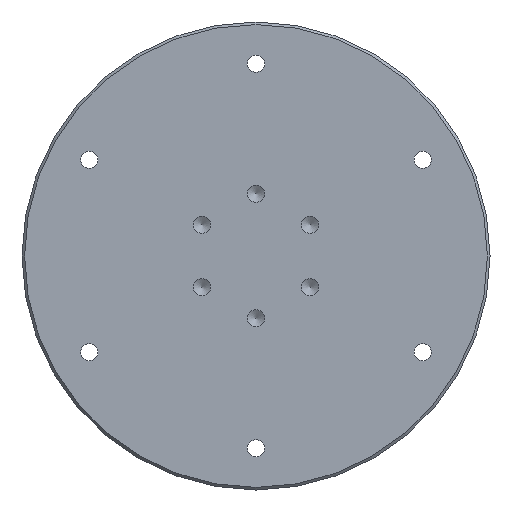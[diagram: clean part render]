
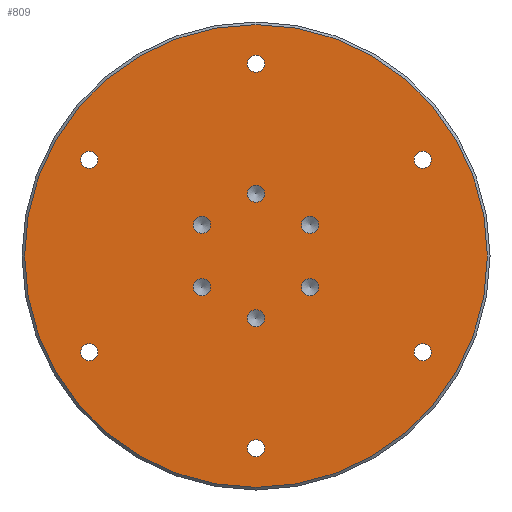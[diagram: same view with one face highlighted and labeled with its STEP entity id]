
A CAD part, left-side view. The second image highlights one B-rep face of the part: STEP entity #809.
In plain terms, the highlighted planar face has unit normal (-1, 0, 0).
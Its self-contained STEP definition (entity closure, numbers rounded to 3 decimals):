
#5 = AXIS2_PLACEMENT_3D ( 'NONE', #106, #428, #996 ) ;
#14 = AXIS2_PLACEMENT_3D ( 'NONE', #461, #954, #69 ) ;
#16 = DIRECTION ( 'NONE',  ( 0., 0., -1. ) ) ;
#20 = CARTESIAN_POINT ( 'NONE',  ( 0., 0., 37. ) ) ;
#35 = EDGE_CURVE ( 'NONE', #44, #44, #589, .T. ) ;
#44 = VERTEX_POINT ( 'NONE', #204 ) ;
#49 = DIRECTION ( 'NONE',  ( -1., 0., 0. ) ) ;
#59 = CARTESIAN_POINT ( 'NONE',  ( 0., 10.392, 7.65 ) ) ;
#60 = FACE_BOUND ( 'NONE', #257, .T. ) ;
#66 = DIRECTION ( 'NONE',  ( -1., 0., 0. ) ) ;
#68 = EDGE_LOOP ( 'NONE', ( #737 ) ) ;
#69 = DIRECTION ( 'NONE',  ( 0., 0., 1. ) ) ;
#78 = CIRCLE ( 'NONE', #857, 1.65 ) ;
#79 = EDGE_LOOP ( 'NONE', ( #618 ) ) ;
#80 = EDGE_CURVE ( 'NONE', #930, #930, #1031, .T. ) ;
#94 = AXIS2_PLACEMENT_3D ( 'NONE', #555, #66, #614 ) ;
#95 = EDGE_CURVE ( 'NONE', #210, #210, #486, .T. ) ;
#96 = ORIENTED_EDGE ( 'NONE', *, *, #80, .F. ) ;
#98 = CARTESIAN_POINT ( 'NONE',  ( 0., -32.043, -16.85 ) ) ;
#106 = CARTESIAN_POINT ( 'NONE',  ( 0., -32.043, 18.5 ) ) ;
#117 = AXIS2_PLACEMENT_3D ( 'NONE', #911, #583, #430 ) ;
#135 = VERTEX_POINT ( 'NONE', #385 ) ;
#136 = FACE_BOUND ( 'NONE', #981, .T. ) ;
#148 = EDGE_LOOP ( 'NONE', ( #783 ) ) ;
#164 = CARTESIAN_POINT ( 'NONE',  ( 0., 0., 12. ) ) ;
#183 = AXIS2_PLACEMENT_3D ( 'NONE', #681, #825, #325 ) ;
#204 = CARTESIAN_POINT ( 'NONE',  ( 0., 10.392, -4.35 ) ) ;
#210 = VERTEX_POINT ( 'NONE', #696 ) ;
#212 = VERTEX_POINT ( 'NONE', #854 ) ;
#217 = ORIENTED_EDGE ( 'NONE', *, *, #655, .F. ) ;
#218 = FACE_BOUND ( 'NONE', #266, .T. ) ;
#231 = VERTEX_POINT ( 'NONE', #59 ) ;
#233 = ORIENTED_EDGE ( 'NONE', *, *, #483, .F. ) ;
#239 = DIRECTION ( 'NONE',  ( 1., 0., 0. ) ) ;
#250 = CARTESIAN_POINT ( 'NONE',  ( 0., 0., 0. ) ) ;
#253 = CARTESIAN_POINT ( 'NONE',  ( 0., -10.392, 6. ) ) ;
#257 = EDGE_LOOP ( 'NONE', ( #217 ) ) ;
#266 = EDGE_LOOP ( 'NONE', ( #96 ) ) ;
#268 = EDGE_CURVE ( 'NONE', #212, #212, #548, .T. ) ;
#273 = DIRECTION ( 'NONE',  ( 0., 0., 1. ) ) ;
#301 = FACE_BOUND ( 'NONE', #790, .T. ) ;
#307 = AXIS2_PLACEMENT_3D ( 'NONE', #314, #318, #961 ) ;
#308 = CARTESIAN_POINT ( 'NONE',  ( 0., -10.392, 7.65 ) ) ;
#314 = CARTESIAN_POINT ( 'NONE',  ( 0., 10.392, -6. ) ) ;
#317 = EDGE_CURVE ( 'NONE', #231, #231, #800, .T. ) ;
#318 = DIRECTION ( 'NONE',  ( -1., 0., 0. ) ) ;
#321 = ORIENTED_EDGE ( 'NONE', *, *, #268, .F. ) ;
#323 = EDGE_CURVE ( 'NONE', #135, #135, #442, .T. ) ;
#325 = DIRECTION ( 'NONE',  ( 0., 0., 1. ) ) ;
#335 = CARTESIAN_POINT ( 'NONE',  ( 0., 0., -12. ) ) ;
#345 = AXIS2_PLACEMENT_3D ( 'NONE', #164, #566, #887 ) ;
#349 = DIRECTION ( 'NONE',  ( -1., 0., 0. ) ) ;
#379 = ORIENTED_EDGE ( 'NONE', *, *, #910, .F. ) ;
#385 = CARTESIAN_POINT ( 'NONE',  ( 0., 0., -44.5 ) ) ;
#401 = VERTEX_POINT ( 'NONE', #658 ) ;
#402 = DIRECTION ( 'NONE',  ( -1., 0., 0. ) ) ;
#424 = CIRCLE ( 'NONE', #5, 1.65 ) ;
#428 = DIRECTION ( 'NONE',  ( -1., 0., 0. ) ) ;
#429 = CIRCLE ( 'NONE', #527, 1.65 ) ;
#430 = DIRECTION ( 'NONE',  ( 0., 0., 1. ) ) ;
#432 = DIRECTION ( 'NONE',  ( 0., 0., 1. ) ) ;
#433 = CARTESIAN_POINT ( 'NONE',  ( 0., 0., -37. ) ) ;
#434 = EDGE_CURVE ( 'NONE', #946, #946, #429, .T. ) ;
#442 = CIRCLE ( 'NONE', #1040, 44.5 ) ;
#443 = CIRCLE ( 'NONE', #1042, 1.65 ) ;
#451 = CARTESIAN_POINT ( 'NONE',  ( 0., 0., 38.65 ) ) ;
#457 = FACE_BOUND ( 'NONE', #633, .T. ) ;
#461 = CARTESIAN_POINT ( 'NONE',  ( 0., 32.043, 18.5 ) ) ;
#463 = EDGE_CURVE ( 'NONE', #939, #939, #443, .T. ) ;
#467 = EDGE_LOOP ( 'NONE', ( #537 ) ) ;
#468 = AXIS2_PLACEMENT_3D ( 'NONE', #835, #349, #432 ) ;
#483 = EDGE_CURVE ( 'NONE', #625, #625, #78, .T. ) ;
#486 = CIRCLE ( 'NONE', #183, 1.65 ) ;
#519 = AXIS2_PLACEMENT_3D ( 'NONE', #250, #239, #16 ) ;
#524 = EDGE_LOOP ( 'NONE', ( #656 ) ) ;
#527 = AXIS2_PLACEMENT_3D ( 'NONE', #20, #402, #962 ) ;
#530 = CARTESIAN_POINT ( 'NONE',  ( 0., 32.043, 20.15 ) ) ;
#532 = FACE_BOUND ( 'NONE', #818, .T. ) ;
#537 = ORIENTED_EDGE ( 'NONE', *, *, #463, .F. ) ;
#538 = FACE_BOUND ( 'NONE', #148, .T. ) ;
#548 = CIRCLE ( 'NONE', #770, 1.65 ) ;
#553 = FACE_BOUND ( 'NONE', #697, .T. ) ;
#555 = CARTESIAN_POINT ( 'NONE',  ( 0., 10.392, 6. ) ) ;
#561 = DIRECTION ( 'NONE',  ( -1., 0., 0. ) ) ;
#566 = DIRECTION ( 'NONE',  ( -1., 0., 0. ) ) ;
#573 = CARTESIAN_POINT ( 'NONE',  ( 0., 0., 13.65 ) ) ;
#583 = DIRECTION ( 'NONE',  ( -1., 0., 0. ) ) ;
#585 = VERTEX_POINT ( 'NONE', #573 ) ;
#589 = CIRCLE ( 'NONE', #307, 1.65 ) ;
#614 = DIRECTION ( 'NONE',  ( 0., 0., 1. ) ) ;
#618 = ORIENTED_EDGE ( 'NONE', *, *, #317, .F. ) ;
#620 = FACE_BOUND ( 'NONE', #467, .T. ) ;
#625 = VERTEX_POINT ( 'NONE', #710 ) ;
#633 = EDGE_LOOP ( 'NONE', ( #951 ) ) ;
#647 = EDGE_CURVE ( 'NONE', #401, #401, #964, .T. ) ;
#655 = EDGE_CURVE ( 'NONE', #721, #721, #424, .T. ) ;
#656 = ORIENTED_EDGE ( 'NONE', *, *, #35, .F. ) ;
#658 = CARTESIAN_POINT ( 'NONE',  ( 0., -10.392, -4.35 ) ) ;
#668 = DIRECTION ( 'NONE',  ( 0., 0., 1. ) ) ;
#679 = CIRCLE ( 'NONE', #345, 1.65 ) ;
#681 = CARTESIAN_POINT ( 'NONE',  ( 0., 32.043, -18.5 ) ) ;
#696 = CARTESIAN_POINT ( 'NONE',  ( 0., 32.043, -16.85 ) ) ;
#697 = EDGE_LOOP ( 'NONE', ( #901 ) ) ;
#707 = CARTESIAN_POINT ( 'NONE',  ( 0., 0., 0. ) ) ;
#710 = CARTESIAN_POINT ( 'NONE',  ( 0., 0., -10.35 ) ) ;
#721 = VERTEX_POINT ( 'NONE', #967 ) ;
#734 = DIRECTION ( 'NONE',  ( 0., 0., 1. ) ) ;
#737 = ORIENTED_EDGE ( 'NONE', *, *, #323, .T. ) ;
#743 = PLANE ( 'NONE',  #519 ) ;
#770 = AXIS2_PLACEMENT_3D ( 'NONE', #433, #1013, #273 ) ;
#783 = ORIENTED_EDGE ( 'NONE', *, *, #95, .F. ) ;
#790 = EDGE_LOOP ( 'NONE', ( #233 ) ) ;
#797 = FACE_OUTER_BOUND ( 'NONE', #68, .T. ) ;
#800 = CIRCLE ( 'NONE', #94, 1.65 ) ;
#809 = ADVANCED_FACE ( 'NONE', ( #301, #532, #620, #940, #218, #538, #136, #457, #60, #824, #553, #797, #972 ), #743, .F. ) ;
#810 = DIRECTION ( 'NONE',  ( -1., 0., 0. ) ) ;
#817 = VERTEX_POINT ( 'NONE', #98 ) ;
#818 = EDGE_LOOP ( 'NONE', ( #960 ) ) ;
#824 = FACE_BOUND ( 'NONE', #79, .T. ) ;
#825 = DIRECTION ( 'NONE',  ( -1., 0., 0. ) ) ;
#835 = CARTESIAN_POINT ( 'NONE',  ( 0., -10.392, -6. ) ) ;
#854 = CARTESIAN_POINT ( 'NONE',  ( 0., 0., -35.35 ) ) ;
#857 = AXIS2_PLACEMENT_3D ( 'NONE', #335, #810, #734 ) ;
#877 = DIRECTION ( 'NONE',  ( 0., 0., -1. ) ) ;
#887 = DIRECTION ( 'NONE',  ( 0., 0., 1. ) ) ;
#901 = ORIENTED_EDGE ( 'NONE', *, *, #434, .F. ) ;
#908 = EDGE_LOOP ( 'NONE', ( #379 ) ) ;
#910 = EDGE_CURVE ( 'NONE', #585, #585, #679, .T. ) ;
#911 = CARTESIAN_POINT ( 'NONE',  ( 0., -32.043, -18.5 ) ) ;
#930 = VERTEX_POINT ( 'NONE', #530 ) ;
#939 = VERTEX_POINT ( 'NONE', #308 ) ;
#940 = FACE_BOUND ( 'NONE', #908, .T. ) ;
#946 = VERTEX_POINT ( 'NONE', #451 ) ;
#948 = CIRCLE ( 'NONE', #117, 1.65 ) ;
#951 = ORIENTED_EDGE ( 'NONE', *, *, #953, .F. ) ;
#953 = EDGE_CURVE ( 'NONE', #817, #817, #948, .T. ) ;
#954 = DIRECTION ( 'NONE',  ( -1., 0., 0. ) ) ;
#960 = ORIENTED_EDGE ( 'NONE', *, *, #647, .F. ) ;
#961 = DIRECTION ( 'NONE',  ( 0., 0., 1. ) ) ;
#962 = DIRECTION ( 'NONE',  ( 0., 0., 1. ) ) ;
#964 = CIRCLE ( 'NONE', #468, 1.65 ) ;
#967 = CARTESIAN_POINT ( 'NONE',  ( 0., -32.043, 20.15 ) ) ;
#972 = FACE_BOUND ( 'NONE', #524, .T. ) ;
#981 = EDGE_LOOP ( 'NONE', ( #321 ) ) ;
#996 = DIRECTION ( 'NONE',  ( 0., 0., 1. ) ) ;
#1013 = DIRECTION ( 'NONE',  ( -1., 0., 0. ) ) ;
#1031 = CIRCLE ( 'NONE', #14, 1.65 ) ;
#1040 = AXIS2_PLACEMENT_3D ( 'NONE', #707, #49, #877 ) ;
#1042 = AXIS2_PLACEMENT_3D ( 'NONE', #253, #561, #668 ) ;
